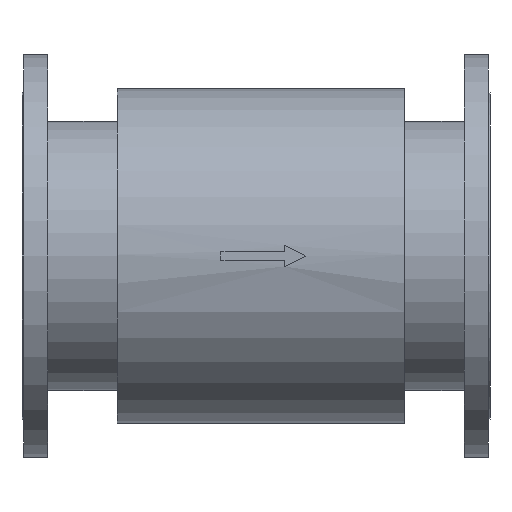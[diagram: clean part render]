
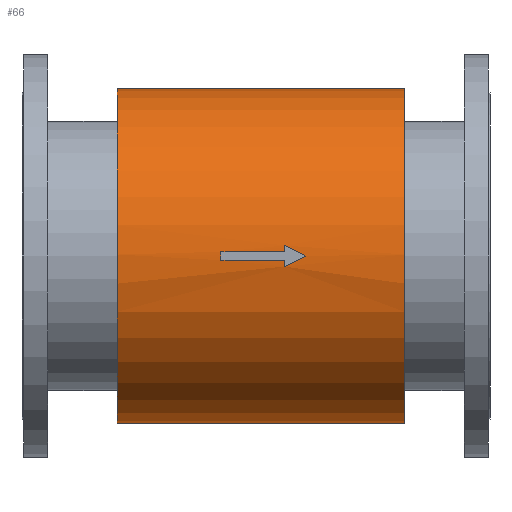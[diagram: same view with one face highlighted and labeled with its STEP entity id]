
A CAD part, front view. The second image highlights one B-rep face of the part: STEP entity #66.
In plain terms, the highlighted cylindrical face has radius 166.3 mm (diameter 332.6 mm), a partial arc.
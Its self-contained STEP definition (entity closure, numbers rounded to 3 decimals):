
#66=ADVANCED_FACE('',(#449,#450),#448,.T.);
#448=CYLINDRICAL_SURFACE('',#1299,166.3);
#449=FACE_OUTER_BOUND('',#1300,.T.);
#450=FACE_BOUND('',#1301,.T.);
#1296=CARTESIAN_POINT('',(1094.7,0.,0.));
#1297=DIRECTION('',(1.,0.,0.));
#1298=DIRECTION('',(0.,0.009,1.));
#1299=AXIS2_PLACEMENT_3D('',#1296,#1297,#1298);
#1300=EDGE_LOOP('',(#1832,#1833,#1834,#1835));
#1301=EDGE_LOOP('',(#1836,#1837,#1838,#1839,#1840,#1841,#1842));
#1832=ORIENTED_EDGE('',*,*,#2127,.T.);
#1833=ORIENTED_EDGE('',*,*,#2288,.F.);
#1834=ORIENTED_EDGE('',*,*,#2284,.F.);
#1835=ORIENTED_EDGE('',*,*,#2289,.T.);
#1836=ORIENTED_EDGE('',*,*,#2266,.F.);
#1837=ORIENTED_EDGE('',*,*,#2282,.F.);
#1838=ORIENTED_EDGE('',*,*,#2270,.F.);
#1839=ORIENTED_EDGE('',*,*,#2123,.F.);
#1840=ORIENTED_EDGE('',*,*,#2273,.F.);
#1841=ORIENTED_EDGE('',*,*,#2275,.F.);
#1842=ORIENTED_EDGE('',*,*,#2280,.F.);
#2123=EDGE_CURVE('',#2423,#2430,#2431,.T.);
#2127=EDGE_CURVE('',#2458,#2450,#2459,.T.);
#2266=EDGE_CURVE('',#3421,#3428,#3429,.T.);
#2270=EDGE_CURVE('',#2430,#3454,#3455,.T.);
#2273=EDGE_CURVE('',#3467,#2423,#3474,.T.);
#2275=EDGE_CURVE('',#3480,#3467,#3487,.T.);
#2280=EDGE_CURVE('',#3428,#3480,#3519,.T.);
#2282=EDGE_CURVE('',#3454,#3421,#3531,.T.);
#2284=EDGE_CURVE('',#3538,#3545,#3546,.T.);
#2288=EDGE_CURVE('',#3545,#2450,#3572,.T.);
#2289=EDGE_CURVE('',#3538,#2458,#3578,.T.);
#2423=VERTEX_POINT('',#4008);
#2430=VERTEX_POINT('',#4012);
#2431=(BOUNDED_CURVE() B_SPLINE_CURVE(2,(#4013,#4014,#4015),.UNSPECIFIED.,.F.,.F.) B_SPLINE_CURVE_WITH_KNOTS((3,3),(-4.776,-4.712),.UNSPECIFIED.) CURVE() GEOMETRIC_REPRESENTATION_ITEM() RATIONAL_B_SPLINE_CURVE((1.,1.,1.)) REPRESENTATION_ITEM('') );
#2450=VERTEX_POINT('',#4023);
#2458=VERTEX_POINT('',#4029);
#2459=CIRCLE('',#4033,166.3);
#3421=VERTEX_POINT('',#4706);
#3428=VERTEX_POINT('',#4710);
#3429=LINE('',#4711,#4712);
#3454=VERTEX_POINT('',#4725);
#3455=(BOUNDED_CURVE() B_SPLINE_CURVE(2,(#4726,#4727,#4728),.UNSPECIFIED.,.F.,.F.) B_SPLINE_CURVE_WITH_KNOTS((3,3),(-1.571,-1.508),.UNSPECIFIED.) CURVE() GEOMETRIC_REPRESENTATION_ITEM() RATIONAL_B_SPLINE_CURVE((1.,1.,1.)) REPRESENTATION_ITEM('') );
#3467=VERTEX_POINT('',#4732);
#3474=CIRCLE('',#4739,166.3);
#3480=VERTEX_POINT('',#4740);
#3487=LINE('',#4744,#4745);
#3519=CIRCLE('',#4765,166.3);
#3531=CIRCLE('',#4772,166.3);
#3538=VERTEX_POINT('',#4774);
#3545=VERTEX_POINT('',#4779);
#3546=CIRCLE('',#4783,166.3);
#3572=(BOUNDED_CURVE() B_SPLINE_CURVE(1,(#4798,#4799),.UNSPECIFIED.,.F.,.F.) B_SPLINE_CURVE_WITH_KNOTS((2,2),(0.033,0.967),.UNSPECIFIED.) CURVE() GEOMETRIC_REPRESENTATION_ITEM() RATIONAL_B_SPLINE_CURVE((1.,1.)) REPRESENTATION_ITEM('') );
#3578=(BOUNDED_CURVE() B_SPLINE_CURVE(1,(#4800,#4801),.UNSPECIFIED.,.F.,.F.) B_SPLINE_CURVE_WITH_KNOTS((2,2),(0.033,0.967),.UNSPECIFIED.) CURVE() GEOMETRIC_REPRESENTATION_ITEM() RATIONAL_B_SPLINE_CURVE((0.75,0.75)) REPRESENTATION_ITEM('') );
#4008=CARTESIAN_POINT('',(260.7,-165.968,-10.5));
#4012=CARTESIAN_POINT('',(281.7,-166.3,0.));
#4013=CARTESIAN_POINT('',(260.7,-165.968,-10.5));
#4014=CARTESIAN_POINT('',(271.19,-166.3,-5.255));
#4015=CARTESIAN_POINT('',(281.7,-166.3,0.));
#4023=CARTESIAN_POINT('',(380.,1.451,166.294));
#4029=CARTESIAN_POINT('',(380.,-1.451,-166.294));
#4030=CARTESIAN_POINT('',(380.,0.,0.));
#4031=DIRECTION('',(-1.,0.,0.));
#4032=DIRECTION('',(0.,0.,-1.));
#4033=AXIS2_PLACEMENT_3D('',#4030,#4031,#4032);
#4706=CARTESIAN_POINT('',(260.7,-166.247,4.2));
#4710=CARTESIAN_POINT('',(197.7,-166.247,4.2));
#4711=CARTESIAN_POINT('',(260.7,-166.247,4.2));
#4712=VECTOR('',#4713,63.);
#4713=DIRECTION('',(-1.,0.,0.));
#4725=CARTESIAN_POINT('',(260.7,-165.968,10.5));
#4726=CARTESIAN_POINT('',(281.7,-166.3,0.));
#4727=CARTESIAN_POINT('',(271.19,-166.3,5.255));
#4728=CARTESIAN_POINT('',(260.7,-165.968,10.5));
#4732=CARTESIAN_POINT('',(260.7,-166.247,-4.2));
#4736=CARTESIAN_POINT('',(260.7,0.,0.));
#4737=DIRECTION('',(1.,0.,0.));
#4738=DIRECTION('',(0.,0.,-1.));
#4739=AXIS2_PLACEMENT_3D('',#4736,#4737,#4738);
#4740=CARTESIAN_POINT('',(197.7,-166.247,-4.2));
#4744=CARTESIAN_POINT('',(197.7,-166.247,-4.2));
#4745=VECTOR('',#4746,63.);
#4746=DIRECTION('',(1.,0.,0.));
#4762=CARTESIAN_POINT('',(197.7,0.,0.));
#4763=DIRECTION('',(1.,0.,0.));
#4764=DIRECTION('',(0.,0.,-1.));
#4765=AXIS2_PLACEMENT_3D('',#4762,#4763,#4764);
#4769=CARTESIAN_POINT('',(260.7,0.,0.));
#4770=DIRECTION('',(1.,0.,0.));
#4771=DIRECTION('',(0.,0.,-1.));
#4772=AXIS2_PLACEMENT_3D('',#4769,#4770,#4771);
#4774=CARTESIAN_POINT('',(94.7,-1.451,-166.294));
#4779=CARTESIAN_POINT('',(94.7,1.451,166.294));
#4780=CARTESIAN_POINT('',(94.7,0.,0.));
#4781=DIRECTION('',(-1.,0.,0.));
#4782=DIRECTION('',(0.,0.,-1.));
#4783=AXIS2_PLACEMENT_3D('',#4780,#4781,#4782);
#4798=CARTESIAN_POINT('',(94.7,1.451,166.294));
#4799=CARTESIAN_POINT('',(380.,1.451,166.294));
#4800=CARTESIAN_POINT('',(94.7,-1.451,-166.294));
#4801=CARTESIAN_POINT('',(380.,-1.451,-166.294));
